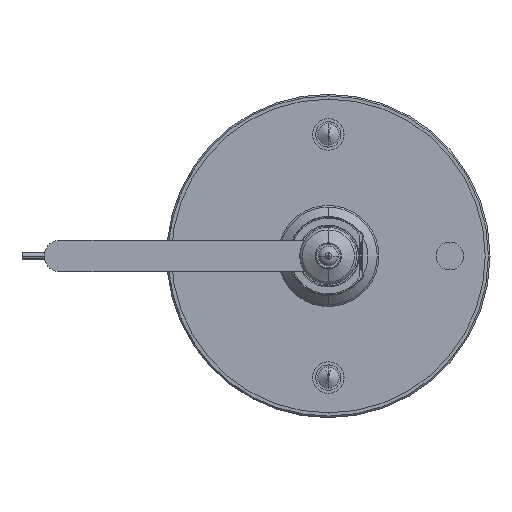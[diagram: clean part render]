
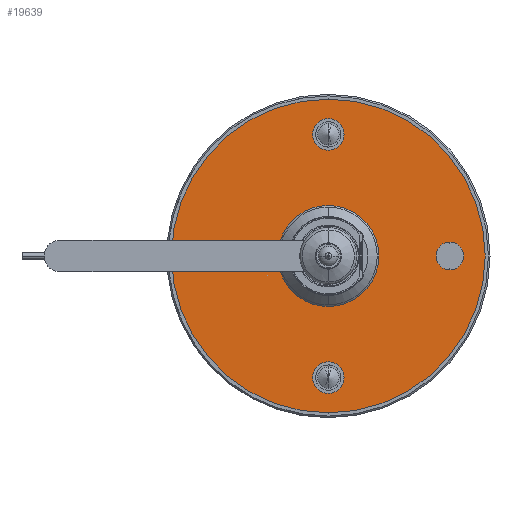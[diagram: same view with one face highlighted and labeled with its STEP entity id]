
A CAD part, front view. The second image highlights one B-rep face of the part: STEP entity #19639.
In plain terms, the highlighted planar face has unit normal (0, -1, 0) as drawn and (0, 0, -1) by its records, which use the part's own axes.
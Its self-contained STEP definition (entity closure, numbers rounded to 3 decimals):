
#65 = DIRECTION ( 'NONE',  ( -1., 0., 0. ) ) ;
#787 = AXIS2_PLACEMENT_3D ( 'NONE', #1884, #16287, #8492 ) ;
#1501 = ORIENTED_EDGE ( 'NONE', *, *, #4955, .T. ) ;
#1567 = EDGE_LOOP ( 'NONE', ( #1501, #23401 ) ) ;
#1884 = CARTESIAN_POINT ( 'NONE',  ( 10.5, 0., 0. ) ) ;
#1949 = DIRECTION ( 'NONE',  ( -1., 0., 0. ) ) ;
#2268 = CARTESIAN_POINT ( 'NONE',  ( 0., 38.5, 0. ) ) ;
#2269 = DIRECTION ( 'NONE',  ( 0., 0., 1. ) ) ;
#2348 = CARTESIAN_POINT ( 'NONE',  ( -43.5, 0., 0. ) ) ;
#2355 = CARTESIAN_POINT ( 'NONE',  ( -38.5, 0., 0. ) ) ;
#2460 = DIRECTION ( 'NONE',  ( 0., 0., 1. ) ) ;
#2518 = CIRCLE ( 'NONE', #2937, 5. ) ;
#2560 = DIRECTION ( 'NONE',  ( -1., 0., 0. ) ) ;
#2792 = CARTESIAN_POINT ( 'NONE',  ( 38.5, 0., 0. ) ) ;
#2937 = AXIS2_PLACEMENT_3D ( 'NONE', #8636, #6785, #2560 ) ;
#3396 = ORIENTED_EDGE ( 'NONE', *, *, #21684, .T. ) ;
#3526 = ORIENTED_EDGE ( 'NONE', *, *, #22166, .T. ) ;
#3643 = ORIENTED_EDGE ( 'NONE', *, *, #17450, .T. ) ;
#3673 = CARTESIAN_POINT ( 'NONE',  ( 0., 0., 0. ) ) ;
#4205 = DIRECTION ( 'NONE',  ( 0., 0., 1. ) ) ;
#4812 = VERTEX_POINT ( 'NONE', #21055 ) ;
#4841 = VERTEX_POINT ( 'NONE', #13604 ) ;
#4955 = EDGE_CURVE ( 'NONE', #17134, #6226, #11009, .T. ) ;
#5278 = EDGE_LOOP ( 'NONE', ( #9794, #3396 ) ) ;
#5331 = FACE_BOUND ( 'NONE', #10520, .T. ) ;
#5458 = FACE_BOUND ( 'NONE', #14626, .T. ) ;
#5670 = DIRECTION ( 'NONE',  ( 0., 0., 1. ) ) ;
#5740 = VERTEX_POINT ( 'NONE', #20689 ) ;
#5994 = CARTESIAN_POINT ( 'NONE',  ( -10.5, 0., 0. ) ) ;
#6226 = VERTEX_POINT ( 'NONE', #20891 ) ;
#6473 = CARTESIAN_POINT ( 'NONE',  ( 0., 38.5, 0. ) ) ;
#6785 = DIRECTION ( 'NONE',  ( 0., 0., 1. ) ) ;
#6811 = EDGE_CURVE ( 'NONE', #8137, #20870, #18599, .T. ) ;
#7240 = AXIS2_PLACEMENT_3D ( 'NONE', #8399, #2460, #65 ) ;
#7260 = DIRECTION ( 'NONE',  ( 0., 0., 1. ) ) ;
#7307 = AXIS2_PLACEMENT_3D ( 'NONE', #2355, #4205, #1949 ) ;
#7528 = CARTESIAN_POINT ( 'NONE',  ( 0., -38.5, 0. ) ) ;
#7707 = FACE_OUTER_BOUND ( 'NONE', #1567, .T. ) ;
#7787 = EDGE_CURVE ( 'NONE', #4841, #22609, #8098, .T. ) ;
#7946 = DIRECTION ( 'NONE',  ( 0., 0., 1. ) ) ;
#8055 = DIRECTION ( 'NONE',  ( 0., 0., -1. ) ) ;
#8098 = CIRCLE ( 'NONE', #7240, 4.4 ) ;
#8137 = VERTEX_POINT ( 'NONE', #21247 ) ;
#8241 = DIRECTION ( 'NONE',  ( 0., 0., 1. ) ) ;
#8364 = CARTESIAN_POINT ( 'NONE',  ( 0., 0., 0. ) ) ;
#8399 = CARTESIAN_POINT ( 'NONE',  ( 0., -38.5, 0. ) ) ;
#8492 = DIRECTION ( 'NONE',  ( -1., 0., 0. ) ) ;
#8636 = CARTESIAN_POINT ( 'NONE',  ( 38.5, 0., 0. ) ) ;
#8933 = DIRECTION ( 'NONE',  ( -1., 0., 0. ) ) ;
#9299 = EDGE_CURVE ( 'NONE', #6226, #17134, #20752, .T. ) ;
#9794 = ORIENTED_EDGE ( 'NONE', *, *, #21332, .T. ) ;
#9817 = CIRCLE ( 'NONE', #25503, 5. ) ;
#9843 = CIRCLE ( 'NONE', #24684, 5. ) ;
#9888 = CARTESIAN_POINT ( 'NONE',  ( -4.4, -38.5, 0. ) ) ;
#10520 = EDGE_LOOP ( 'NONE', ( #20906, #3526 ) ) ;
#11009 = CIRCLE ( 'NONE', #25822, 49.675 ) ;
#11479 = DIRECTION ( 'NONE',  ( 1., 0., 0. ) ) ;
#11780 = CIRCLE ( 'NONE', #20251, 4.4 ) ;
#12219 = AXIS2_PLACEMENT_3D ( 'NONE', #8364, #8241, #24403 ) ;
#12402 = DIRECTION ( 'NONE',  ( -1., 0., 0. ) ) ;
#12641 = CIRCLE ( 'NONE', #12219, 10.5 ) ;
#12775 = VERTEX_POINT ( 'NONE', #2348 ) ;
#12889 = CARTESIAN_POINT ( 'NONE',  ( 0., 0., 0. ) ) ;
#12990 = EDGE_CURVE ( 'NONE', #13080, #18101, #12641, .T. ) ;
#13080 = VERTEX_POINT ( 'NONE', #5994 ) ;
#13204 = ORIENTED_EDGE ( 'NONE', *, *, #7787, .T. ) ;
#13224 = EDGE_CURVE ( 'NONE', #5740, #4812, #2518, .T. ) ;
#13604 = CARTESIAN_POINT ( 'NONE',  ( 4.4, -38.5, 0. ) ) ;
#13644 = FACE_BOUND ( 'NONE', #24817, .T. ) ;
#13705 = EDGE_LOOP ( 'NONE', ( #18306, #13204 ) ) ;
#14052 = DIRECTION ( 'NONE',  ( -1., 0., 0. ) ) ;
#14053 = CIRCLE ( 'NONE', #7307, 5. ) ;
#14071 = ORIENTED_EDGE ( 'NONE', *, *, #26203, .T. ) ;
#14626 = EDGE_LOOP ( 'NONE', ( #3643, #18064 ) ) ;
#14662 = EDGE_CURVE ( 'NONE', #22609, #4841, #11780, .T. ) ;
#15217 = AXIS2_PLACEMENT_3D ( 'NONE', #2268, #7946, #16000 ) ;
#15248 = AXIS2_PLACEMENT_3D ( 'NONE', #17062, #20804, #20668 ) ;
#15585 = DIRECTION ( 'NONE',  ( -1., 0., 0. ) ) ;
#15761 = FACE_BOUND ( 'NONE', #5278, .T. ) ;
#16000 = DIRECTION ( 'NONE',  ( -1., 0., 0. ) ) ;
#16287 = DIRECTION ( 'NONE',  ( 0., 0., -1. ) ) ;
#16675 = CARTESIAN_POINT ( 'NONE',  ( 49.675, 0., 0. ) ) ;
#17062 = CARTESIAN_POINT ( 'NONE',  ( 0., 0., 0. ) ) ;
#17125 = CARTESIAN_POINT ( 'NONE',  ( 10.5, 0., 0. ) ) ;
#17134 = VERTEX_POINT ( 'NONE', #16675 ) ;
#17450 = EDGE_CURVE ( 'NONE', #20870, #8137, #21532, .T. ) ;
#18064 = ORIENTED_EDGE ( 'NONE', *, *, #6811, .T. ) ;
#18101 = VERTEX_POINT ( 'NONE', #17125 ) ;
#18306 = ORIENTED_EDGE ( 'NONE', *, *, #14662, .T. ) ;
#18599 = CIRCLE ( 'NONE', #15217, 4.4 ) ;
#19639 = ADVANCED_FACE ( 'NONE', ( #7707, #23472, #5458, #5331, #15761, #13644 ), #23864, .T. ) ;
#19791 = VERTEX_POINT ( 'NONE', #21581 ) ;
#20251 = AXIS2_PLACEMENT_3D ( 'NONE', #7528, #5670, #15585 ) ;
#20668 = DIRECTION ( 'NONE',  ( -1., 0., 0. ) ) ;
#20689 = CARTESIAN_POINT ( 'NONE',  ( 33.5, 0., 0. ) ) ;
#20752 = CIRCLE ( 'NONE', #15248, 49.675 ) ;
#20798 = DIRECTION ( 'NONE',  ( -1., 0., 0. ) ) ;
#20804 = DIRECTION ( 'NONE',  ( 0., 0., -1. ) ) ;
#20870 = VERTEX_POINT ( 'NONE', #23063 ) ;
#20891 = CARTESIAN_POINT ( 'NONE',  ( -49.675, 0., 0. ) ) ;
#20906 = ORIENTED_EDGE ( 'NONE', *, *, #13224, .T. ) ;
#21055 = CARTESIAN_POINT ( 'NONE',  ( 43.5, 0., 0. ) ) ;
#21247 = CARTESIAN_POINT ( 'NONE',  ( 4.4, 38.5, 0. ) ) ;
#21332 = EDGE_CURVE ( 'NONE', #12775, #19791, #14053, .T. ) ;
#21532 = CIRCLE ( 'NONE', #22812, 4.4 ) ;
#21581 = CARTESIAN_POINT ( 'NONE',  ( -33.5, 0., 0. ) ) ;
#21684 = EDGE_CURVE ( 'NONE', #19791, #12775, #9817, .T. ) ;
#22143 = DIRECTION ( 'NONE',  ( 0., 0., 1. ) ) ;
#22166 = EDGE_CURVE ( 'NONE', #4812, #5740, #9843, .T. ) ;
#22247 = ORIENTED_EDGE ( 'NONE', *, *, #12990, .T. ) ;
#22330 = AXIS2_PLACEMENT_3D ( 'NONE', #3673, #7260, #11479 ) ;
#22341 = CIRCLE ( 'NONE', #22330, 10.5 ) ;
#22609 = VERTEX_POINT ( 'NONE', #9888 ) ;
#22812 = AXIS2_PLACEMENT_3D ( 'NONE', #6473, #23137, #12402 ) ;
#23063 = CARTESIAN_POINT ( 'NONE',  ( -4.4, 38.5, 0. ) ) ;
#23137 = DIRECTION ( 'NONE',  ( 0., 0., 1. ) ) ;
#23401 = ORIENTED_EDGE ( 'NONE', *, *, #9299, .T. ) ;
#23472 = FACE_BOUND ( 'NONE', #13705, .T. ) ;
#23864 = PLANE ( 'NONE',  #787 ) ;
#24275 = CARTESIAN_POINT ( 'NONE',  ( -38.5, 0., 0. ) ) ;
#24403 = DIRECTION ( 'NONE',  ( 1., 0., 0. ) ) ;
#24684 = AXIS2_PLACEMENT_3D ( 'NONE', #2792, #2269, #20798 ) ;
#24817 = EDGE_LOOP ( 'NONE', ( #14071, #22247 ) ) ;
#25503 = AXIS2_PLACEMENT_3D ( 'NONE', #24275, #22143, #14052 ) ;
#25822 = AXIS2_PLACEMENT_3D ( 'NONE', #12889, #8055, #8933 ) ;
#26203 = EDGE_CURVE ( 'NONE', #18101, #13080, #22341, .T. ) ;
